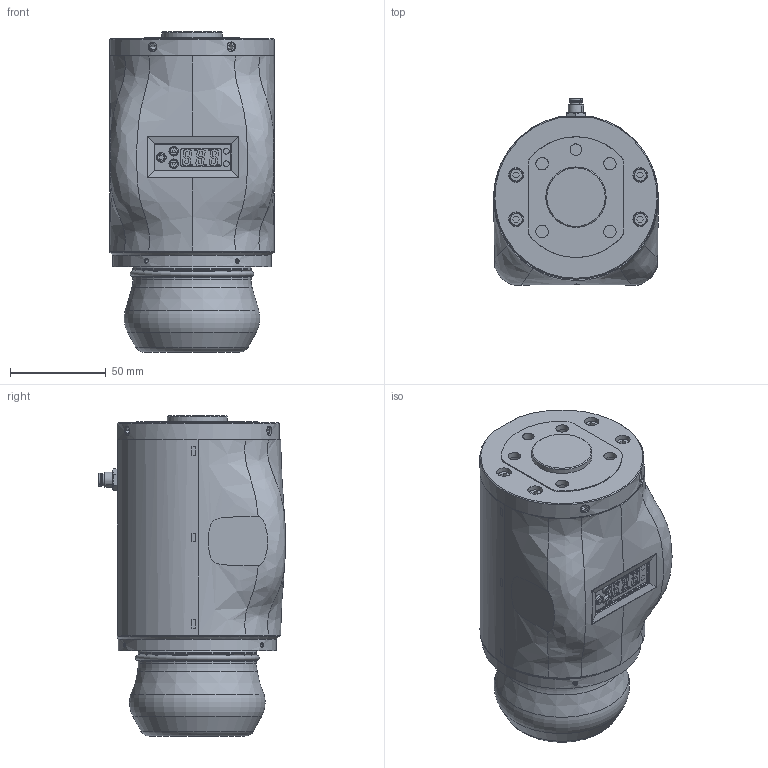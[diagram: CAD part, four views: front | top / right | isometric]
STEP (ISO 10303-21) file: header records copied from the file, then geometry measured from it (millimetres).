
FILE_DESCRIPTION(('STEP AP203'),'1');
FILE_NAME('-N.stp','2023-09-01T05:28:23',(' '),(' '),'Spatial InterOp 3D',' ',' ');
FILE_SCHEMA(('CONFIG_CONTROL_DESIGN'));
Length unit declared in the file: millimetre
Products named in the file (3): SGE-B3_-N; Assy; パーツ1
Assembly tree (2 placements, depth 2):
  SGE-B3_-N
    Assy
    パーツ1
Bounding box: 86.02 x 97.48 x 167 mm (x, y, z)
Volume: 330802.3 mm3; surface area: 110589.2 mm2
Topology: 6 solids, 11 shells, 1006 faces, 2816 edges, 1927 vertices
Faces by surface type: plane 671, cylinder 220, cone 49, bspline 36, torus 20, offset 10
Full cylindrical faces by diameter (mm): 1 x5, 1.6 x4, 2.5 x18, 3 x2, 4 x4, 4.1 x4, 4.2 x8, 4.8 x3, 5 x31, 6 x1, 6.5 x4, 7 x8, 7.6 x8, 8 x1, 8.2 x1, 11 x4, 29.979 x1, 30 x1, 31.5 x1, 61.6 x2, 82.6 x1
Entity records: 41785 total; most frequent: CARTESIAN_POINT 18629, ORIENTED_EDGE 4951, DIRECTION 4216, EDGE_CURVE 2479, VERTEX_POINT 1775, LINE 1544, VECTOR 1544, AXIS2_PLACEMENT_3D 1336
